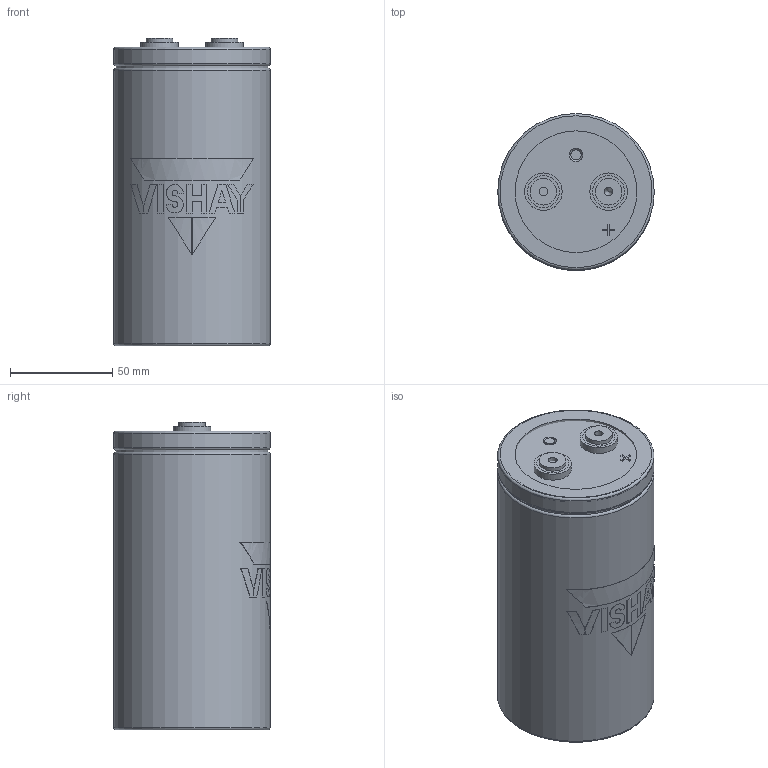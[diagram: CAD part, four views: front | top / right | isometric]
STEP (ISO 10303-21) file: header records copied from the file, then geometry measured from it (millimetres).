
FILE_DESCRIPTION(('FreeCAD Model'),'2;1');
FILE_NAME('C:/Users/tvandesteeg/Documents/Documents/FreeCAD/Stepfiles/ST capacitors/ST_LP_13mm_M5_76x146.step','2020-12-14T17:01:03',('Author'),( ''),'Open CASCADE STEP processor 7.3','FreeCAD','Unknown');
FILE_SCHEMA(('AUTOMOTIVE_DESIGN { 1 0 10303 214 1 1 1 1 }'));
Length unit declared in the file: millimetre
Products named in the file (8): VentBody; BottomBody; TerminalBody_(Mirror_#2); TerminalBody; TerminalHole; Disc; LogoPrint; CanBody
Bounding box: 76.4 x 76.5 x 150.2 mm (x, y, z)
Volume: 670941 mm3; surface area: 72927 mm2
Topology: 18 solids, 18 shells, 152 faces, 316 edges, 208 vertices
Faces by surface type: plane 95, cylinder 49, torus 5, cone 3
Full cylindrical faces by diameter (mm): 4.2 x2, 5 x2, 13 x2, 15.65 x7, 18.3 x2, 59.422 x3, 72 x2, 74.2 x1, 76.4 x2
Entity records: 10765 total; most frequent: CARTESIAN_POINT 3371, DIRECTION 1221, ORIENTED_EDGE 628, PCURVE 628, DEFINITIONAL_REPRESENTATION 628, LINE 537, VECTOR 537, EDGE_CURVE 314
